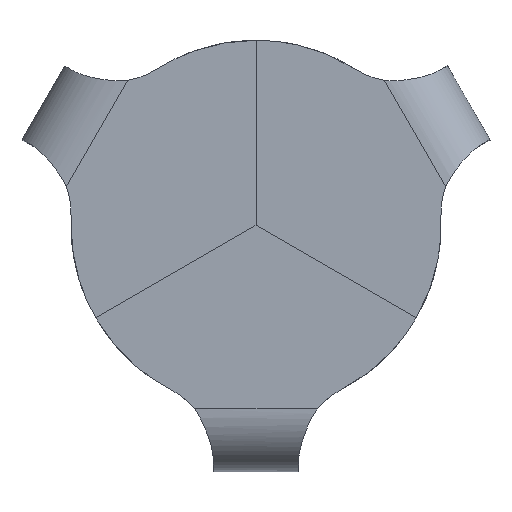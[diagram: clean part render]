
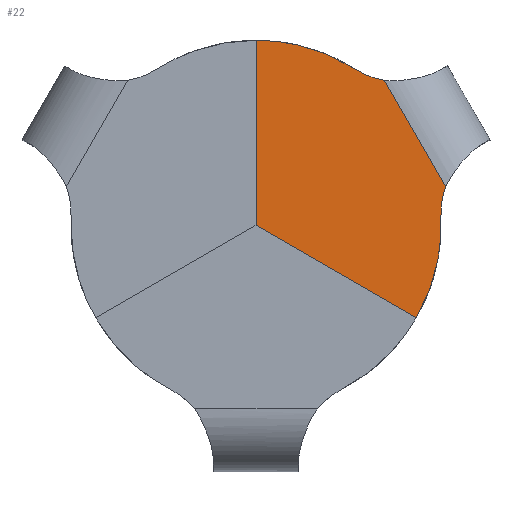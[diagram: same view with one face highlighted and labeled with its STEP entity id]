
A CAD part, top view. The second image highlights one B-rep face of the part: STEP entity #22.
In plain terms, the highlighted planar face has unit normal (0, 0, 1).
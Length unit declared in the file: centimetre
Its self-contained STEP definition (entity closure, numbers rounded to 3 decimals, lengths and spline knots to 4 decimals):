
#22=ADVANCED_FACE($,(#61),#491,.T.);
#61=FACE_OUTER_BOUND($,#100,.T.);
#100=EDGE_LOOP($,(#183,#184,#185,#186,#187,#188,#189));
#183=ORIENTED_EDGE($,*,*,#347,.T.);
#184=ORIENTED_EDGE($,*,*,#348,.T.);
#185=ORIENTED_EDGE($,*,*,#349,.T.);
#186=ORIENTED_EDGE($,*,*,#350,.T.);
#187=ORIENTED_EDGE($,*,*,#351,.T.);
#188=ORIENTED_EDGE($,*,*,#346,.T.);
#189=ORIENTED_EDGE($,*,*,#340,.F.);
#340=EDGE_CURVE($,#428,#431,#527,.T.);
#346=EDGE_CURVE($,#433,#431,#533,.T.);
#347=EDGE_CURVE($,#428,#434,#534,.T.);
#348=EDGE_CURVE($,#434,#435,#535,.T.);
#349=EDGE_CURVE($,#435,#436,#536,.T.);
#350=EDGE_CURVE($,#436,#437,#537,.T.);
#351=EDGE_CURVE($,#437,#433,#538,.T.);
#428=VERTEX_POINT($,#2179);
#431=VERTEX_POINT($,#2182);
#433=VERTEX_POINT($,#2184);
#434=VERTEX_POINT($,#2185);
#435=VERTEX_POINT($,#2186);
#436=VERTEX_POINT($,#2187);
#437=VERTEX_POINT($,#2188);
#491=PLANE($,#690);
#527=B_SPLINE_CURVE_WITH_KNOTS($,1,(#850,#851),.UNSPECIFIED.,.F.,.F.,(2,
2),(121.8864,306.8864),.UNSPECIFIED.);
#533=B_SPLINE_CURVE_WITH_KNOTS($,1,(#872,#873),.UNSPECIFIED.,.F.,.F.,(2,
2),(121.8864,306.8864),.UNSPECIFIED.);
#534=B_SPLINE_CURVE_WITH_KNOTS($,3,(#874,#875,#876,#877),.UNSPECIFIED.,.F.,
.F.,(4,4),(-104.8304,0.),.UNSPECIFIED.);
#535=B_SPLINE_CURVE_WITH_KNOTS($,3,(#878,#879,#880,#881),.UNSPECIFIED.,.F.,
.F.,(4,4),(-31.2844,0.),.UNSPECIFIED.);
#536=B_SPLINE_CURVE_WITH_KNOTS($,3,(#882,#883,#884,#885),.UNSPECIFIED.,.F.,
.F.,(4,4),(-122.5427,0.),.UNSPECIFIED.);
#537=B_SPLINE_CURVE_WITH_KNOTS($,3,(#886,#887,#888,#889),.UNSPECIFIED.,.F.,
.F.,(4,4),(-31.2862,0.),.UNSPECIFIED.);
#538=B_SPLINE_CURVE_WITH_KNOTS($,3,(#890,#891,#892,#893),.UNSPECIFIED.,.F.,
.F.,(4,4),(-104.8304,0.),.UNSPECIFIED.);
#690=AXIS2_PLACEMENT_3D($,#1302,#702,$);
#702=DIRECTION($,(0.,0.,1.));
#850=CARTESIAN_POINT($,(16.0215,-9.25,42.9951));
#851=CARTESIAN_POINT($,(0.,0.,42.9951));
#872=CARTESIAN_POINT($,(0.,18.5,42.9951));
#873=CARTESIAN_POINT($,(0.,0.,42.9951));
#874=CARTESIAN_POINT($,(16.0215,-9.25,42.9951));
#875=CARTESIAN_POINT($,(17.7804,-6.2034,42.9951));
#876=CARTESIAN_POINT($,(18.6343,-2.7184,42.9951));
#877=CARTESIAN_POINT($,(18.4829,0.7962,42.9951));
#878=CARTESIAN_POINT($,(18.4829,0.7962,42.9951));
#879=CARTESIAN_POINT($,(18.4379,1.8414,42.9951));
#880=CARTESIAN_POINT($,(18.5983,2.8853,42.9951));
#881=CARTESIAN_POINT($,(18.9552,3.8687,42.9951));
#882=CARTESIAN_POINT($,(18.9552,3.8687,42.9951));
#883=CARTESIAN_POINT($,(16.9128,7.4062,42.9951));
#884=CARTESIAN_POINT($,(14.8704,10.9437,42.9951));
#885=CARTESIAN_POINT($,(12.8281,14.4811,42.9951));
#886=CARTESIAN_POINT($,(12.8281,14.4811,42.9951));
#887=CARTESIAN_POINT($,(11.7979,14.6639,42.9951));
#888=CARTESIAN_POINT($,(10.8137,15.0469,42.9951));
#889=CARTESIAN_POINT($,(9.931,15.6085,42.9951));
#890=CARTESIAN_POINT($,(9.931,15.6085,42.9951));
#891=CARTESIAN_POINT($,(6.9629,17.497,42.9951));
#892=CARTESIAN_POINT($,(3.5179,18.5,42.9951));
#893=CARTESIAN_POINT($,(0.,18.5,42.9951));
#1302=CARTESIAN_POINT($,(19.1447,18.5,42.9951));
#2179=CARTESIAN_POINT($,(16.0215,-9.25,42.9951));
#2182=CARTESIAN_POINT($,(0.,0.,42.9951));
#2184=CARTESIAN_POINT($,(0.,18.5,42.9951));
#2185=CARTESIAN_POINT($,(18.4829,0.7962,42.9951));
#2186=CARTESIAN_POINT($,(18.9552,3.8687,42.9951));
#2187=CARTESIAN_POINT($,(12.8281,14.4811,42.9951));
#2188=CARTESIAN_POINT($,(9.931,15.6085,42.9951));
